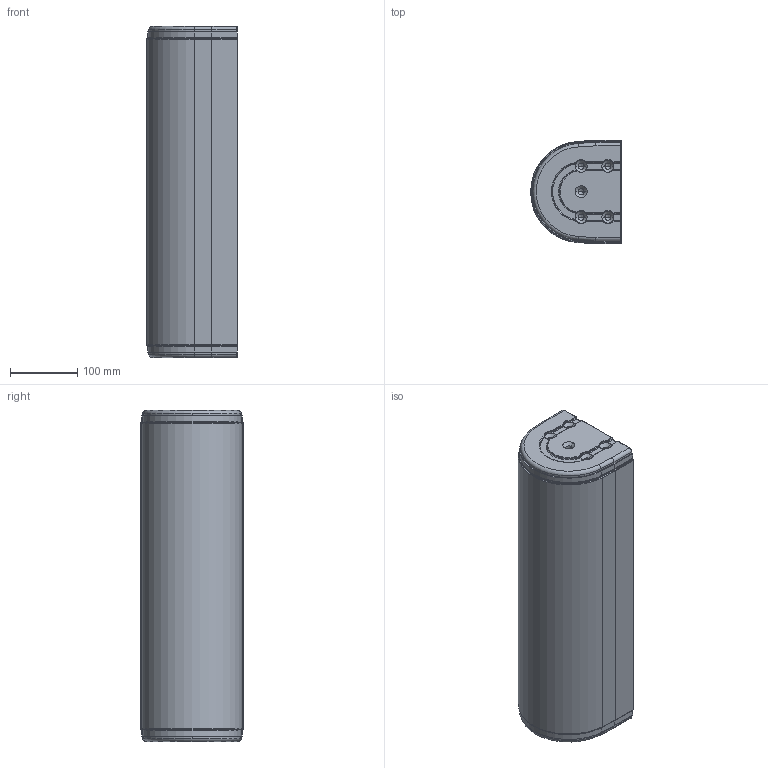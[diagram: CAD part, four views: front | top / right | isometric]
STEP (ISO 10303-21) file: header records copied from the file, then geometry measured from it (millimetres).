
FILE_DESCRIPTION (( 'STEP AP214' ), '1' );
FILE_NAME ('F2 1800 R.step', '2017-04-05T07:30:40', ( '' ), ( '' ), 'SwSTEP 2.0', 'SolidWorks 2015', '' );
FILE_SCHEMA (( 'AUTOMOTIVE_DESIGN' ));
Length unit declared in the file: millimetre
Products named in the file (1): F2 1800 R
Bounding box: 135.3 x 153.4 x 494 mm (x, y, z)
Volume: 8869231.2 mm3; surface area: 290836.8 mm2
Topology: 1 solids, 1 shells, 273 faces, 679 edges, 382 vertices
Faces by surface type: cylinder 120, plane 65, torus 40, cone 40, sphere 8
Entity records: 8646 total; most frequent: CARTESIAN_POINT 1843, DIRECTION 1385, ORIENTED_EDGE 1302, EDGE_CURVE 651, AXIS2_PLACEMENT_3D 530, VERTEX_POINT 382, LINE 325, VECTOR 325
